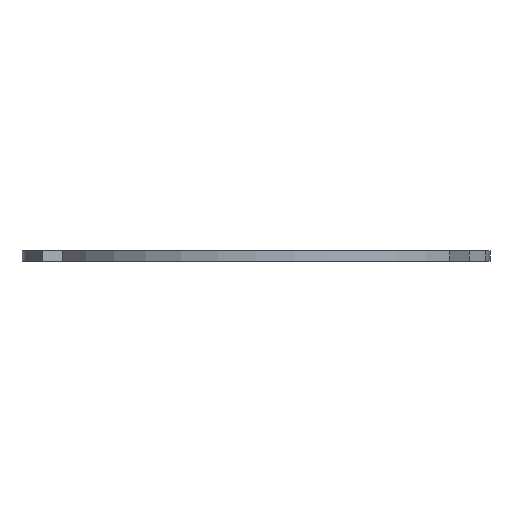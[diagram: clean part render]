
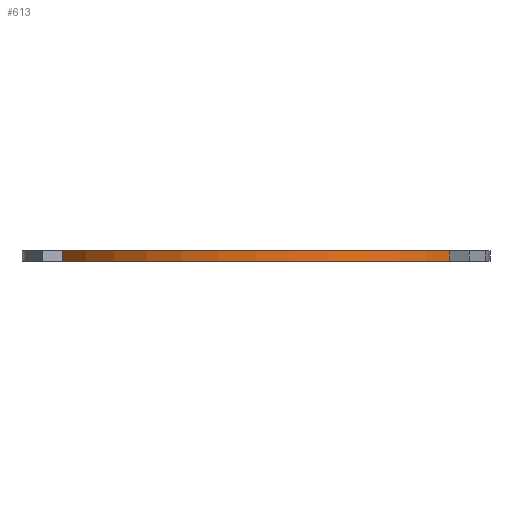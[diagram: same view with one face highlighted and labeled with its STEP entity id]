
A CAD part, left-side view. The second image highlights one B-rep face of the part: STEP entity #613.
In plain terms, the highlighted cylindrical face has radius 14 mm (diameter 28 mm), a partial arc.
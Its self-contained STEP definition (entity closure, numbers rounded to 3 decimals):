
#32 = PLANE('',#33);
#33 = AXIS2_PLACEMENT_3D('',#34,#35,#36);
#34 = CARTESIAN_POINT('',(0.,0.,0.));
#35 = DIRECTION('',(0.,0.,1.));
#36 = DIRECTION('',(1.,0.,-0.));
#142 = VERTEX_POINT('',#143);
#143 = CARTESIAN_POINT('',(-7.848,11.593,0.));
#157 = PLANE('',#158);
#158 = AXIS2_PLACEMENT_3D('',#159,#160,#161);
#159 = CARTESIAN_POINT('',(-7.816,11.538,0.));
#160 = DIRECTION('',(-0.866,-0.5,0.));
#161 = DIRECTION('',(0.,0.,1.));
#169 = EDGE_CURVE('',#142,#170,#172,.T.);
#170 = VERTEX_POINT('',#171);
#171 = CARTESIAN_POINT('',(-7.848,-11.593,0.));
#172 = SURFACE_CURVE('',#173,(#178,#185),.PCURVE_S1.);
#173 = CIRCLE('',#174,14.);
#174 = AXIS2_PLACEMENT_3D('',#175,#176,#177);
#175 = CARTESIAN_POINT('',(0.,0.,0.));
#176 = DIRECTION('',(0.,0.,1.));
#177 = DIRECTION('',(1.,0.,-0.));
#178 = PCURVE('',#32,#179);
#179 = DEFINITIONAL_REPRESENTATION('',(#180),#184);
#180 = CIRCLE('',#181,14.);
#181 = AXIS2_PLACEMENT_2D('',#182,#183);
#182 = CARTESIAN_POINT('',(0.,0.));
#183 = DIRECTION('',(1.,0.));
#184 = ( GEOMETRIC_REPRESENTATION_CONTEXT(2) 
PARAMETRIC_REPRESENTATION_CONTEXT() REPRESENTATION_CONTEXT('2D SPACE',''
  ) );
#185 = PCURVE('',#186,#191);
#186 = CYLINDRICAL_SURFACE('',#187,14.);
#187 = AXIS2_PLACEMENT_3D('',#188,#189,#190);
#188 = CARTESIAN_POINT('',(0.,0.,0.));
#189 = DIRECTION('',(0.,0.,1.));
#190 = DIRECTION('',(1.,0.,-0.));
#191 = DEFINITIONAL_REPRESENTATION('',(#192),#196);
#192 = LINE('',#193,#194);
#193 = CARTESIAN_POINT('',(0.,0.));
#194 = VECTOR('',#195,1.);
#195 = DIRECTION('',(1.,0.));
#196 = ( GEOMETRIC_REPRESENTATION_CONTEXT(2) 
PARAMETRIC_REPRESENTATION_CONTEXT() REPRESENTATION_CONTEXT('2D SPACE',''
  ) );
#214 = PLANE('',#215);
#215 = AXIS2_PLACEMENT_3D('',#216,#217,#218);
#216 = CARTESIAN_POINT('',(-7.816,-11.538,0.));
#217 = DIRECTION('',(0.866,-0.5,0.));
#218 = DIRECTION('',(0.,0.,1.));
#437 = PLANE('',#438);
#438 = AXIS2_PLACEMENT_3D('',#439,#440,#441);
#439 = CARTESIAN_POINT('',(13.9,-1.,0.6));
#440 = DIRECTION('',(0.,0.,1.));
#441 = DIRECTION('',(1.,0.,0.));
#613 = ADVANCED_FACE('',(#614),#186,.T.);
#614 = FACE_BOUND('',#615,.T.);
#615 = EDGE_LOOP('',(#616,#642,#661,#662));
#616 = ORIENTED_EDGE('',*,*,#617,.F.);
#617 = EDGE_CURVE('',#618,#620,#622,.T.);
#618 = VERTEX_POINT('',#619);
#619 = CARTESIAN_POINT('',(-7.848,11.593,0.6));
#620 = VERTEX_POINT('',#621);
#621 = CARTESIAN_POINT('',(-7.848,-11.593,0.6));
#622 = SURFACE_CURVE('',#623,(#628,#635),.PCURVE_S1.);
#623 = CIRCLE('',#624,14.);
#624 = AXIS2_PLACEMENT_3D('',#625,#626,#627);
#625 = CARTESIAN_POINT('',(0.,0.,0.6));
#626 = DIRECTION('',(0.,0.,1.));
#627 = DIRECTION('',(1.,0.,-0.));
#628 = PCURVE('',#186,#629);
#629 = DEFINITIONAL_REPRESENTATION('',(#630),#634);
#630 = LINE('',#631,#632);
#631 = CARTESIAN_POINT('',(0.,0.6));
#632 = VECTOR('',#633,1.);
#633 = DIRECTION('',(1.,0.));
#634 = ( GEOMETRIC_REPRESENTATION_CONTEXT(2) 
PARAMETRIC_REPRESENTATION_CONTEXT() REPRESENTATION_CONTEXT('2D SPACE',''
  ) );
#635 = PCURVE('',#437,#636);
#636 = DEFINITIONAL_REPRESENTATION('',(#637),#641);
#637 = CIRCLE('',#638,14.);
#638 = AXIS2_PLACEMENT_2D('',#639,#640);
#639 = CARTESIAN_POINT('',(-13.9,1.));
#640 = DIRECTION('',(1.,0.));
#641 = ( GEOMETRIC_REPRESENTATION_CONTEXT(2) 
PARAMETRIC_REPRESENTATION_CONTEXT() REPRESENTATION_CONTEXT('2D SPACE',''
  ) );
#642 = ORIENTED_EDGE('',*,*,#643,.F.);
#643 = EDGE_CURVE('',#142,#618,#644,.T.);
#644 = SURFACE_CURVE('',#645,(#649,#655),.PCURVE_S1.);
#645 = LINE('',#646,#647);
#646 = CARTESIAN_POINT('',(-7.848,11.593,0.));
#647 = VECTOR('',#648,1.);
#648 = DIRECTION('',(0.,0.,1.));
#649 = PCURVE('',#186,#650);
#650 = DEFINITIONAL_REPRESENTATION('',(#651),#654);
#651 = B_SPLINE_CURVE_WITH_KNOTS('',1,(#652,#653),.UNSPECIFIED.,.F.,.F.,
  (2,2),(0.,0.6),.PIECEWISE_BEZIER_KNOTS.);
#652 = CARTESIAN_POINT('',(2.166,0.));
#653 = CARTESIAN_POINT('',(2.166,0.6));
#654 = ( GEOMETRIC_REPRESENTATION_CONTEXT(2) 
PARAMETRIC_REPRESENTATION_CONTEXT() REPRESENTATION_CONTEXT('2D SPACE',''
  ) );
#655 = PCURVE('',#157,#656);
#656 = DEFINITIONAL_REPRESENTATION('',(#657),#660);
#657 = B_SPLINE_CURVE_WITH_KNOTS('',1,(#658,#659),.UNSPECIFIED.,.F.,.F.,
  (2,2),(0.,0.6),.PIECEWISE_BEZIER_KNOTS.);
#658 = CARTESIAN_POINT('',(0.,0.064));
#659 = CARTESIAN_POINT('',(0.6,0.064));
#660 = ( GEOMETRIC_REPRESENTATION_CONTEXT(2) 
PARAMETRIC_REPRESENTATION_CONTEXT() REPRESENTATION_CONTEXT('2D SPACE',''
  ) );
#661 = ORIENTED_EDGE('',*,*,#169,.T.);
#662 = ORIENTED_EDGE('',*,*,#663,.T.);
#663 = EDGE_CURVE('',#170,#620,#664,.T.);
#664 = SURFACE_CURVE('',#665,(#669,#675),.PCURVE_S1.);
#665 = LINE('',#666,#667);
#666 = CARTESIAN_POINT('',(-7.848,-11.593,0.));
#667 = VECTOR('',#668,1.);
#668 = DIRECTION('',(0.,0.,1.));
#669 = PCURVE('',#186,#670);
#670 = DEFINITIONAL_REPRESENTATION('',(#671),#674);
#671 = B_SPLINE_CURVE_WITH_KNOTS('',1,(#672,#673),.UNSPECIFIED.,.F.,.F.,
  (2,2),(0.,0.6),.PIECEWISE_BEZIER_KNOTS.);
#672 = CARTESIAN_POINT('',(4.117,0.));
#673 = CARTESIAN_POINT('',(4.117,0.6));
#674 = ( GEOMETRIC_REPRESENTATION_CONTEXT(2) 
PARAMETRIC_REPRESENTATION_CONTEXT() REPRESENTATION_CONTEXT('2D SPACE',''
  ) );
#675 = PCURVE('',#214,#676);
#676 = DEFINITIONAL_REPRESENTATION('',(#677),#680);
#677 = B_SPLINE_CURVE_WITH_KNOTS('',1,(#678,#679),.UNSPECIFIED.,.F.,.F.,
  (2,2),(0.,0.6),.PIECEWISE_BEZIER_KNOTS.);
#678 = CARTESIAN_POINT('',(0.,0.064));
#679 = CARTESIAN_POINT('',(0.6,0.064));
#680 = ( GEOMETRIC_REPRESENTATION_CONTEXT(2) 
PARAMETRIC_REPRESENTATION_CONTEXT() REPRESENTATION_CONTEXT('2D SPACE',''
  ) );
